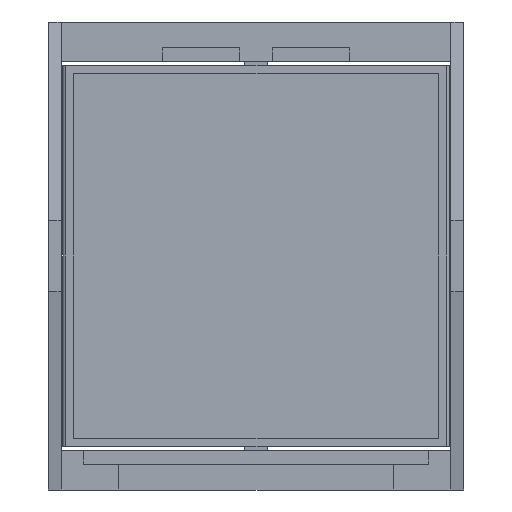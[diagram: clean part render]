
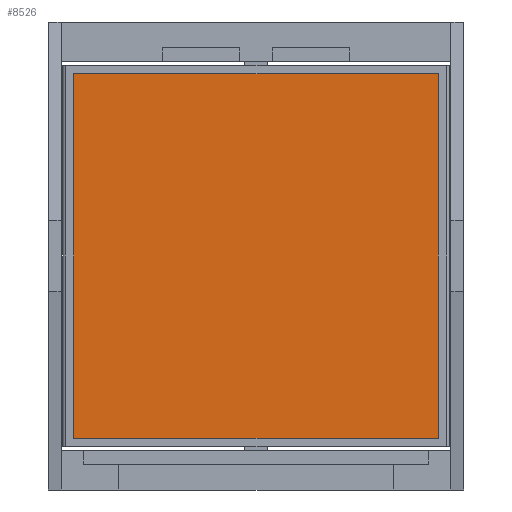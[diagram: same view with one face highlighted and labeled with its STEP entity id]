
A CAD part, front view. The second image highlights one B-rep face of the part: STEP entity #8526.
In plain terms, the highlighted planar face has unit normal (0, -1, 0).
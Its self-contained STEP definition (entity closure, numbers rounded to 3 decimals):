
#642 = LINE ( 'NONE', #4918, #1393 ) ;
#832 = DIRECTION ( 'NONE',  ( -1., 0., 0. ) ) ;
#1393 = VECTOR ( 'NONE', #7332, 1000. ) ;
#1431 = LINE ( 'NONE', #4395, #4331 ) ;
#1567 = EDGE_CURVE ( 'NONE', #9015, #6457, #6745, .T. ) ;
#1727 = DIRECTION ( 'NONE',  ( 1., 0., 0. ) ) ;
#2752 = ORIENTED_EDGE ( 'NONE', *, *, #1567, .F. ) ;
#2781 = CARTESIAN_POINT ( 'NONE',  ( 16.5, -0.127, -16.5 ) ) ;
#2949 = ORIENTED_EDGE ( 'NONE', *, *, #9155, .F. ) ;
#3051 = VECTOR ( 'NONE', #1727, 1000. ) ;
#3227 = FACE_OUTER_BOUND ( 'NONE', #3447, .T. ) ;
#3447 = EDGE_LOOP ( 'NONE', ( #2949, #7741, #8276, #2752 ) ) ;
#3860 = PLANE ( 'NONE',  #9354 ) ;
#4170 = VECTOR ( 'NONE', #832, 1000. ) ;
#4331 = VECTOR ( 'NONE', #7384, 1000. ) ;
#4395 = CARTESIAN_POINT ( 'NONE',  ( -16.5, -0.127, -16.5 ) ) ;
#4703 = DIRECTION ( 'NONE',  ( 0., 0., 1. ) ) ;
#4918 = CARTESIAN_POINT ( 'NONE',  ( 16.5, -0.127, -16.5 ) ) ;
#5293 = DIRECTION ( 'NONE',  ( 0., 1., 0. ) ) ;
#5528 = EDGE_CURVE ( 'NONE', #6457, #9533, #642, .T. ) ;
#6223 = CARTESIAN_POINT ( 'NONE',  ( 16.5, -0.127, 16.5 ) ) ;
#6457 = VERTEX_POINT ( 'NONE', #6223 ) ;
#6597 = CARTESIAN_POINT ( 'NONE',  ( -16.5, -0.127, -16.5 ) ) ;
#6640 = LINE ( 'NONE', #6597, #4170 ) ;
#6745 = LINE ( 'NONE', #7735, #3051 ) ;
#6963 = CARTESIAN_POINT ( 'NONE',  ( -16.5, -0.127, -16.5 ) ) ;
#7134 = CARTESIAN_POINT ( 'NONE',  ( -16.5, -0.127, 16.5 ) ) ;
#7332 = DIRECTION ( 'NONE',  ( 0., 0., -1. ) ) ;
#7384 = DIRECTION ( 'NONE',  ( 0., 0., 1. ) ) ;
#7701 = CARTESIAN_POINT ( 'NONE',  ( -16.5, -0.127, 16.5 ) ) ;
#7735 = CARTESIAN_POINT ( 'NONE',  ( -16.5, -0.127, 16.5 ) ) ;
#7741 = ORIENTED_EDGE ( 'NONE', *, *, #9093, .F. ) ;
#8276 = ORIENTED_EDGE ( 'NONE', *, *, #5528, .F. ) ;
#8344 = VERTEX_POINT ( 'NONE', #6963 ) ;
#8526 = ADVANCED_FACE ( 'NONE', ( #3227 ), #3860, .F. ) ;
#9015 = VERTEX_POINT ( 'NONE', #7134 ) ;
#9093 = EDGE_CURVE ( 'NONE', #9533, #8344, #6640, .T. ) ;
#9155 = EDGE_CURVE ( 'NONE', #8344, #9015, #1431, .T. ) ;
#9354 = AXIS2_PLACEMENT_3D ( 'NONE', #7701, #5293, #4703 ) ;
#9533 = VERTEX_POINT ( 'NONE', #2781 ) ;
